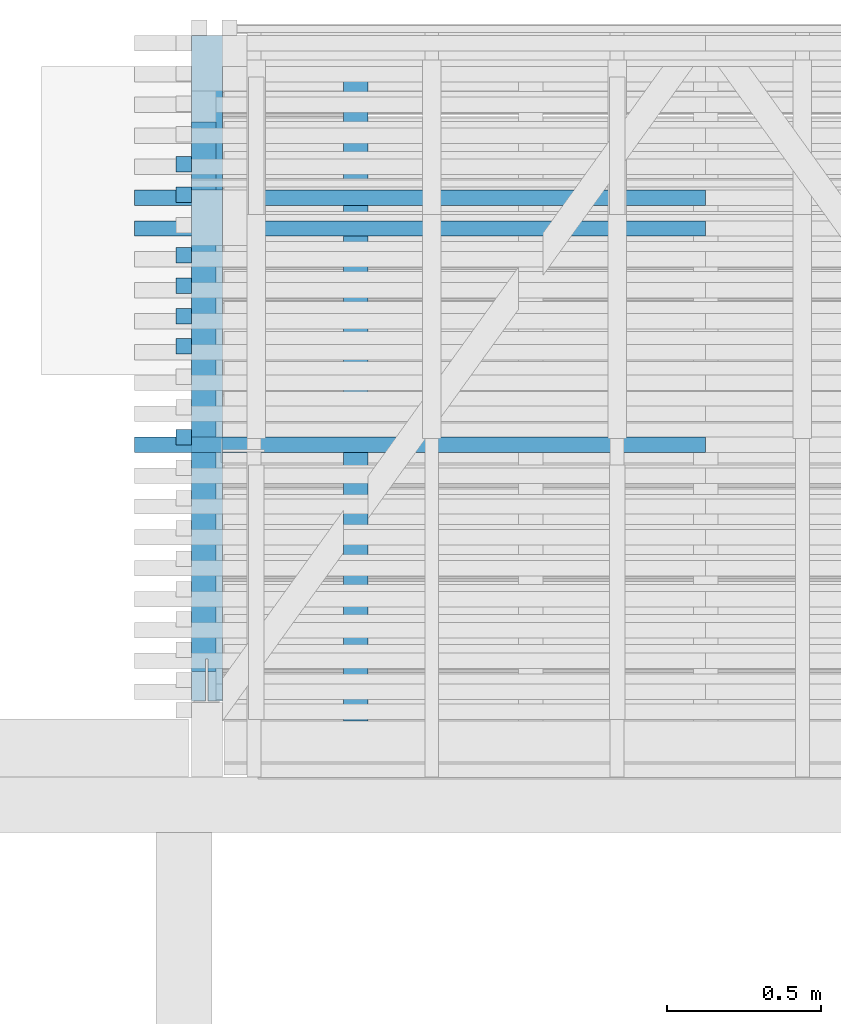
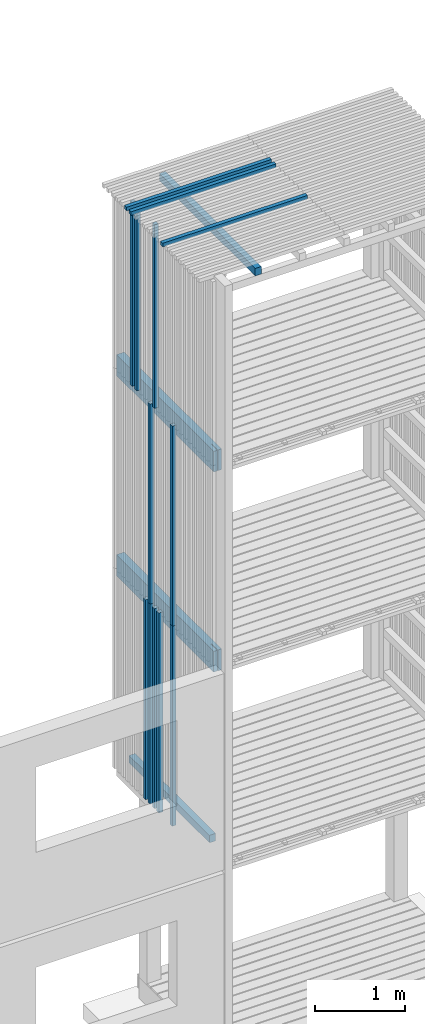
# One storey, part 11 of 182: 17 beams.
"""IFC2X3 building model written with IfcOpenShell, lengths in metres."""

import ifcopenshell
import ifcopenshell.guid

model = None  # the IFC model being written
_history = None  # IfcOwnerHistory: only IFC2X3 demands one
_inside = {}  # id of a spatial element -> (the spatial element, [elements in it])
_under = {}  # id of a project, library or spatial element -> (it, [spatial elements below it])
_declared = {}  # id of a project -> (the project, [libraries it declares])
_typed = {}  # id of a type object -> (the type object, [elements of that type])
_made_of = {}  # id of a material, layer set ... -> (it, [elements and type objects made of it])


def new_model(schema):
    """Start an empty IFC model of exactly this schema.

    Asked for "IFC4X3", IfcOpenShell would pick the latest addendum, in which some entities
    have other attributes; the version numbers below select the first issue.
    IFC2X3 requires an IfcOwnerHistory on every rooted entity: one is made here for all.
    """
    global model, _history
    if schema == "IFC4X3":
        model = ifcopenshell.file(schema_version=(4, 3, 0, 0))
    else:
        model = ifcopenshell.file(schema=schema)
    _inside.clear()
    _under.clear()
    _declared.clear()
    _typed.clear()
    _made_of.clear()
    _history = None
    if model.schema == "IFC2X3":
        org = make("IfcOrganization", Name="unknown")
        user = make(
            "IfcPersonAndOrganization",
            ThePerson=make("IfcPerson", FamilyName="unknown"),
            TheOrganization=org,
        )
        app = make(
            "IfcApplication",
            ApplicationDeveloper=org,
            Version="unknown",
            ApplicationFullName="unknown",
            ApplicationIdentifier="unknown",
        )
        _history = make(
            "IfcOwnerHistory",
            OwningUser=user,
            OwningApplication=app,
            ChangeAction="ADDED",
            CreationDate=0,
        )
    return model


def make(cls, **values):
    """One entity of the class cls with the attributes given. An attribute that is None is left unset."""
    return model.create_entity(
        cls, **{name: value for name, value in values.items() if value is not None}
    )


def rooted(cls, **values):
    """An entity with a GlobalId (a new one), such as an element, a storey or a relation."""
    return make(cls, GlobalId=ifcopenshell.guid.new(), OwnerHistory=_history, **values)


def si_unit(unit_type, name, prefix=None):
    """IfcSIUnit, for example si_unit("LENGTHUNIT", "METRE", prefix="MILLI")."""
    return make("IfcSIUnit", UnitType=unit_type, Prefix=prefix, Name=name)


def assignment(units):
    """IfcUnitAssignment: the units of a project."""
    return None if units is None else make("IfcUnitAssignment", Units=units)


def point(xyz):
    """IfcCartesianPoint."""
    return None if xyz is None else make("IfcCartesianPoint", Coordinates=xyz)


def direction(xyz):
    """IfcDirection."""
    return None if xyz is None else make("IfcDirection", DirectionRatios=xyz)


def frame(location, z_axis=None, x_axis=None):
    """IfcAxis2Placement3D, a coordinate frame: its origin and axes. An axis left out is left unset."""
    return make(
        "IfcAxis2Placement3D",
        Location=point(location),
        Axis=direction(z_axis),
        RefDirection=direction(x_axis),
    )


def origin():
    """The frame at (0, 0, 0) with its axes left unset."""
    return frame((0.0, 0.0, 0.0))


def place(relative_to, where):
    """IfcLocalPlacement: puts the frame where relative to a parent placement (None: the world)."""
    return make(
        "IfcLocalPlacement", PlacementRelTo=relative_to, RelativePlacement=where
    )


def context(
    kind, dimensions, precision=None, world=None, true_north=None, identifier=None
):
    """IfcGeometricRepresentationContext, for example the 3D "Model" context."""
    return make(
        "IfcGeometricRepresentationContext",
        ContextIdentifier=identifier,
        ContextType=kind,
        CoordinateSpaceDimension=dimensions,
        Precision=precision,
        WorldCoordinateSystem=world,
        TrueNorth=true_north,
    )


def project(units=None, contexts=None):
    """IfcProject with its units and contexts."""
    return rooted(
        "IfcProject",
        Name="project",
        RepresentationContexts=contexts,
        UnitsInContext=assignment(units),
    )


def spatial(cls, under=None, at=None, **own):
    """A site, building, storey or space (cls), placed at a placement, below another one or the project."""
    s = rooted(cls, ObjectPlacement=at, **own)
    if under is not None:
        _under.setdefault(under.id(), (under, []))[1].append(s)
    return s


def faces_of(points, faces, orient=None, outer=None):
    """IfcFace entities. A face is a list of loops; a loop is a list of indices into points, from 0.

    orient and outer hold one flag for each loop. By default every Orientation is true, the
    first loop of a face is its IfcFaceOuterBound and the others are IfcFaceBound.
    """
    made = []
    for i, loops in enumerate(faces):
        bounds = []
        for j, loop in enumerate(loops):
            is_outer = j == 0 if outer is None else outer[i][j]
            bounds.append(
                make(
                    "IfcFaceOuterBound" if is_outer else "IfcFaceBound",
                    Bound=make("IfcPolyLoop", Polygon=[points[k] for k in loop]),
                    Orientation=True if orient is None else orient[i][j],
                )
            )
        made.append(make("IfcFace", Bounds=bounds))
    return made


def faceted_brep(points, faces, orient=None, outer=None, voids=None):
    """IfcFacetedBrep: a solid bounded by flat faces; with voids (closed shells), ...WithVoids."""
    shared = [point(p) for p in points]
    hull = make("IfcClosedShell", CfsFaces=faces_of(shared, faces, orient, outer))
    if voids is None:
        return make("IfcFacetedBrep", Outer=hull)
    return make(
        "IfcFacetedBrepWithVoids",
        Outer=hull,
        Voids=[
            make(cls, CfsFaces=faces_of(shared, fs, o, b)) for cls, fs, o, b in voids
        ],
    )


def shape(context_of_items, identifier, shape_type, items):
    """IfcShapeRepresentation: the items that make up one representation, for example the "Body"."""
    return make(
        "IfcShapeRepresentation",
        ContextOfItems=context_of_items,
        RepresentationIdentifier=identifier,
        RepresentationType=shape_type,
        Items=items,
    )


def made_of(thing, what):
    """Note that an element or type object is made of a material, layer set ...; save() writes the relation."""
    if what is not None:
        _made_of.setdefault(what.id(), (what, []))[1].append(thing)
    return thing


def element(
    cls,
    number,
    at=None,
    inside=None,
    cuts=None,
    type_object=None,
    material=None,
    context=None,
    identifier="Body",
    shape_type=None,
    held_by="IfcProductDefinitionShape",
    body=None,
    shapes=None,
    **own,
):
    """One element of the class cls, such as IfcWall. Its Tag is "e" and its number.

    at: its placement. inside: the storey or other place that contains it. cuts: it is an
    opening in that element (IfcRelVoidsElement). A single representation is given by context,
    identifier, shape_type and body (its items); several are given by shapes. held_by: the class
    of the entity that holds the representations. save() writes the other relations.
    """
    e = rooted(cls, Tag="e%d" % number, ObjectPlacement=at, **own)
    if body is not None:
        shapes = [shape(context, identifier, shape_type, body)]
    if shapes is not None:
        e.Representation = make(held_by, Representations=shapes)
    if inside is not None:
        _inside.setdefault(inside.id(), (inside, []))[1].append(e)
    if cuts is not None:
        rooted(
            "IfcRelVoidsElement", RelatingBuildingElement=cuts, RelatedOpeningElement=e
        )
    if type_object is not None:
        _typed.setdefault(type_object.id(), (type_object, []))[1].append(e)
    return made_of(e, material)


def aggregate(whole, parts):
    """IfcRelAggregates: a whole, such as a stair, and the parts it consists of."""
    return rooted("IfcRelAggregates", RelatingObject=whole, RelatedObjects=parts)


def save(model, path):
    """Write the relations noted so far, then the file.

    IfcRelAggregates (storeys below a building ...), IfcRelContainedInSpatialStructure (elements
    in a storey), IfcRelDefinesByType, IfcRelAssociatesMaterial and IfcRelDeclares: one each for
    every whole, place, type object, material and project.
    """
    for whole, parts in _under.values():
        aggregate(whole, parts)
    for where, things in _inside.values():
        rooted(
            "IfcRelContainedInSpatialStructure",
            RelatedElements=things,
            RelatingStructure=where,
        )
    for kind, things in _typed.values():
        rooted("IfcRelDefinesByType", RelatedObjects=things, RelatingType=kind)
    for what, things in _made_of.values():
        rooted("IfcRelAssociatesMaterial", RelatedObjects=things, RelatingMaterial=what)
    for by, libraries in _declared.values():
        rooted("IfcRelDeclares", RelatingContext=by, RelatedDefinitions=libraries)
    model.write(path)


model = new_model("IFC2X3")

# Units and contexts
model_context = context("Model", 3, precision=1e-06, world=origin())
ifc_project = project(units=[si_unit("LENGTHUNIT", "METRE"), si_unit("PLANEANGLEUNIT", "RADIAN")], contexts=[model_context])

# Site, building, storey
site = spatial("IfcSite", under=ifc_project, CompositionType="ELEMENT")
building = spatial("IfcBuilding", under=site, CompositionType="ELEMENT")
storey = spatial("IfcBuildingStorey", under=building, Name="vs", CompositionType="ELEMENT", Elevation=-0.85)

# Beams
placement = place(None, origin())
beam_1_placement = place(placement, frame((4.979197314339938, 12.245077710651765, 10.47999999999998), z_axis=(0.0, 0.0, 1.0), x_axis=(-1.0, 0.0, 0.0)))
element("IfcBeam", 1, at=beam_1_placement, inside=storey, Name="Bardage", context=model_context, shape_type="Brep", body=[
    faceted_brep([(1.850000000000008, -0.024999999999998, -0.024999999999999), (1.850000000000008, -0.024999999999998, 0.025000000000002), (-1e-15, -0.024999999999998, 0.025000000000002), (-1e-15, -0.024999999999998, -0.024999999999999), (1.850000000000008, -0.024999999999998, 0.025000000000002), (1.850000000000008, -0.024999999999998, -0.024999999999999), (1.850000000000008, 0.024999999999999, -0.024999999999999), (1.850000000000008, 0.024999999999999, 0.025000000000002), (1.850000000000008, 0.024999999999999, -0.024999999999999), (1.850000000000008, -0.024999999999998, -0.024999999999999), (-1e-15, -0.024999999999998, -0.024999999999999), (-1e-15, 0.024999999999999, -0.024999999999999), (1.850000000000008, 0.024999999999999, 0.025000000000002), (1.850000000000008, 0.024999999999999, -0.024999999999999), (-1e-15, 0.024999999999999, -0.024999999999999), (-1e-15, 0.024999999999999, 0.025000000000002), (-1e-15, -0.024999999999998, 0.025000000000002), (1.850000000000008, -0.024999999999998, 0.025000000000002), (1.850000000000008, 0.024999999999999, 0.025000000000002), (-1e-15, 0.024999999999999, 0.025000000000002), (-1e-15, -0.024999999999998, -0.024999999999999), (-1e-15, -0.024999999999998, 0.025000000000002), (-1e-15, 0.024999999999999, 0.025000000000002), (-1e-15, 0.024999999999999, -0.024999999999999)], [[[0, 1, 2, 3]], [[4, 5, 6, 7]], [[8, 9, 10, 11]], [[12, 13, 14, 15]], [[16, 17, 18, 19]], [[20, 21, 22, 23]]]),
])
beam_2_placement = place(placement, frame((3.845863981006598, 10.650077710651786, 10.404999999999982), z_axis=(0.0, 0.0, 1.0), x_axis=(0.0, 1.0, 0.0)))
element("IfcBeam", 2, at=beam_2_placement, inside=storey, Name="Support bardage", context=model_context, shape_type="Brep", body=[
    faceted_brep([(2.120000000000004, -0.039999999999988, 0.050000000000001), (2.120000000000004, 0.04000000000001, 0.050000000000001), (3e-15, 0.04000000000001, 0.050000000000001), (3e-15, -0.039999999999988, 0.050000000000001), (3e-15, 0.04000000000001, 0.050000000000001), (2.120000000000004, 0.04000000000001, 0.050000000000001), (2.120000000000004, 0.04000000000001, -0.050000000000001), (3e-15, 0.04000000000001, -0.050000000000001), (2.120000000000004, 0.04000000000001, 0.050000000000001), (2.120000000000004, -0.039999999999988, 0.050000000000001), (2.120000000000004, -0.039999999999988, -0.050000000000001), (2.120000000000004, 0.04000000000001, -0.050000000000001), (2.120000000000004, -0.039999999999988, -0.050000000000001), (2.120000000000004, -0.039999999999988, 0.050000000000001), (3e-15, -0.039999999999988, 0.050000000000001), (3e-15, -0.039999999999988, -0.050000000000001), (3e-15, 0.04000000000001, -0.050000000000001), (2.120000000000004, 0.04000000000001, -0.050000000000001), (2.120000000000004, -0.039999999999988, -0.050000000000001), (3e-15, -0.039999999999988, -0.050000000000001), (3e-15, 0.04000000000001, 0.050000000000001), (3e-15, 0.04000000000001, -0.050000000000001), (3e-15, -0.039999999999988, -0.050000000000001), (3e-15, -0.039999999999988, 0.050000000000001)], [[[0, 1, 2, 3]], [[4, 5, 6, 7]], [[8, 9, 10, 11]], [[12, 13, 14, 15]], [[16, 17, 18, 19]], [[20, 21, 22, 23]]]),
])
beam_3_placement = place(placement, frame((3.289197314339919, 11.863259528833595, 2.575000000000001), z_axis=(1.0, 0.0, 0.0), x_axis=(0.0, 0.0, 1.0)))
element("IfcBeam", 3, at=beam_3_placement, inside=storey, Name="Bardage", context=model_context, shape_type="Brep", body=[
    faceted_brep([(2.699961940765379, -0.024999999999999, 0.025000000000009), (2.699961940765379, -0.024999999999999, -0.025000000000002), (2.699961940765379, 0.024999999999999, -0.025000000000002), (2.699961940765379, 0.024999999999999, 0.025000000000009), (0.0, -0.024999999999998, 0.025000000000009), (2.699961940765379, -0.024999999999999, 0.025000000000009), (2.699961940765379, 0.024999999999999, 0.025000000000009), (0.0, 0.025000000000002, 0.025000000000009), (0.0, -0.024999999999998, 0.025000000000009), (0.0, 0.025000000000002, 0.025000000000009), (0.0, 0.025000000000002, -0.025000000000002), (0.0, -0.024999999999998, -0.025000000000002), (0.0, -0.024999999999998, 0.025000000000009), (0.0, -0.024999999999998, -0.025000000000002), (2.699961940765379, -0.024999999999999, -0.025000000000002), (2.699961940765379, -0.024999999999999, 0.025000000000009), (0.0, -0.024999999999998, -0.025000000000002), (0.0, 0.025000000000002, -0.025000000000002), (2.699961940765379, 0.024999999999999, -0.025000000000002), (2.699961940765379, -0.024999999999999, -0.025000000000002), (0.0, 0.025000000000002, -0.025000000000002), (0.0, 0.025000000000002, 0.025000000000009), (2.699961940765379, 0.024999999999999, 0.025000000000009), (2.699961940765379, 0.024999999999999, -0.025000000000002)], [[[0, 1, 2, 3]], [[4, 5, 6, 7]], [[8, 9, 10, 11]], [[12, 13, 14, 15]], [[16, 17, 18, 19]], [[20, 21, 22, 23]]]),
])
beam_4_placement = place(placement, frame((3.289197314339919, 11.96144134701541, 7.974999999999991), z_axis=(1.0, 0.0, 0.0), x_axis=(0.0, 0.0, 1.0)))
element("IfcBeam", 4, at=beam_4_placement, inside=storey, Name="Bardage", context=model_context, shape_type="Brep", body=[
    faceted_brep([(0.0, -0.024999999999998, 0.025000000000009), (0.0, 0.024999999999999, 0.025000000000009), (0.0, 0.024999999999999, -0.025000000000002), (0.0, -0.024999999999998, -0.025000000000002), (2.479999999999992, 0.024999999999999, -0.025000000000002), (2.479999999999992, 0.024999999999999, 0.025000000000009), (2.479999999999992, -0.024999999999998, 0.025000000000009), (2.479999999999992, -0.024999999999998, -0.025000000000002), (0.0, 0.024999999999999, 0.025000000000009), (0.0, -0.024999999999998, 0.025000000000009), (2.479999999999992, -0.024999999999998, 0.025000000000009), (2.479999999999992, 0.024999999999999, 0.025000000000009), (0.0, 0.024999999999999, -0.025000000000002), (0.0, 0.024999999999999, 0.025000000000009), (2.479999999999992, 0.024999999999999, 0.025000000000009), (2.479999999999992, 0.024999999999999, -0.025000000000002), (0.0, -0.024999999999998, -0.025000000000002), (0.0, 0.024999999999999, -0.025000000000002), (2.479999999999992, 0.024999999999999, -0.025000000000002), (2.479999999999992, -0.024999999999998, -0.025000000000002), (2.479999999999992, -0.024999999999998, 0.025000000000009), (0.0, -0.024999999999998, 0.025000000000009), (0.0, -0.024999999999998, -0.025000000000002), (2.479999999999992, -0.024999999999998, -0.025000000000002)], [[[0, 1, 2, 3]], [[4, 5, 6, 7]], [[8, 9, 10, 11]], [[12, 13, 14, 15]], [[16, 17, 18, 19]], [[20, 21, 22, 23]]]),
])
beam_5_placement = place(placement, frame((3.364197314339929, 10.715077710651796, 5.279999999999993), z_axis=(0.0, 0.0, 1.0), x_axis=(0.0, 1.0, 0.0)))
element("IfcBeam", 5, at=beam_5_placement, inside=storey, Name="Sommier", context=model_context, shape_type="Brep", body=[
    faceted_brep([(2.154999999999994, 0.049999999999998, 0.140000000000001), (2.154999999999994, -0.049999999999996, 0.140000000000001), (2.154999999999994, -0.049999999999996, -0.140000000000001), (2.154999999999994, 0.049999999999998, -0.140000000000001), (0.771999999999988, -0.049999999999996, -0.140000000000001), (0.771999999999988, -0.049999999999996, 0.034999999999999), (0.847999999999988, -0.049999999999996, 0.034999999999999), (0.847999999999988, -0.049999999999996, -0.140000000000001), (2.154999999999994, -0.049999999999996, -0.140000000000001), (2.154999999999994, -0.049999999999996, 0.140000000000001), (0.0, -0.049999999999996, 0.140000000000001), (0.0, -0.049999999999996, -0.140000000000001), (0.771999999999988, -0.045000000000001, -0.140000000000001), (0.847999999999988, -0.045000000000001, -0.140000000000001), (0.847999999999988, -0.045000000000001, 0.034999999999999), (0.771999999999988, -0.045000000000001, 0.034999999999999), (0.771999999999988, -0.045000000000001, 0.034999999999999), (0.847999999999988, -0.045000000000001, 0.034999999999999), (0.847999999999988, -0.049999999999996, 0.034999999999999), (0.771999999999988, -0.049999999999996, 0.034999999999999), (0.847999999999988, -0.045000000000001, 0.034999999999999), (0.847999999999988, -0.045000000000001, -0.140000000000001), (0.847999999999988, -0.049999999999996, -0.140000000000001), (0.847999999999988, -0.049999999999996, 0.034999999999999), (0.771999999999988, -0.049999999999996, 0.034999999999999), (0.771999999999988, -0.049999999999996, -0.140000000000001), (0.771999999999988, -0.045000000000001, -0.140000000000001), (0.771999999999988, -0.045000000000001, 0.034999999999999), (2.154999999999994, 0.049999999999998, 0.140000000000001), (2.154999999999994, 0.049999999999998, -0.140000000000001), (0.0, 0.049999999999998, -0.140000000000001), (0.0, 0.049999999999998, 0.140000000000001), (0.0, -0.00399999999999, 0.140000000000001), (0.0, -0.049999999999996, 0.140000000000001), (2.154999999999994, -0.049999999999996, 0.140000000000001), (2.154999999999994, 0.049999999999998, 0.140000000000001), (0.0, 0.049999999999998, 0.140000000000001), (0.0, 0.004000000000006, 0.140000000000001), (0.137, 0.004000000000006, 0.140000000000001), (0.137, -0.00399999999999, 0.140000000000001), (0.0, 0.004000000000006, -0.140000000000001), (0.0, 0.004000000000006, 0.140000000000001), (0.0, 0.049999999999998, 0.140000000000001), (0.0, 0.049999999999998, -0.140000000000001), (0.0, -0.049999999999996, 0.140000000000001), (0.0, -0.00399999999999, 0.140000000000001), (0.0, -0.00399999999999, -0.140000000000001), (0.0, -0.049999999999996, -0.140000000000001), (0.0, 0.049999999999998, -0.140000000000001), (2.154999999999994, 0.049999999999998, -0.140000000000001), (2.154999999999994, -0.049999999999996, -0.140000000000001), (0.847999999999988, -0.049999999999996, -0.140000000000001), (0.847999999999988, -0.045000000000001, -0.140000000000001), (0.771999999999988, -0.045000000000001, -0.140000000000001), (0.771999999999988, -0.049999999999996, -0.140000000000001), (0.0, -0.049999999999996, -0.140000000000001), (0.0, -0.00399999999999, -0.140000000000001), (0.137, -0.00399999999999, -0.140000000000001), (0.137, 0.004000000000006, -0.140000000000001), (0.0, 0.004000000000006, -0.140000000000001), (0.137, 0.004000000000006, -0.140000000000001), (0.137, -0.00399999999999, -0.140000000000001), (0.137, -0.00399999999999, 0.140000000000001), (0.137, 0.004000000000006, 0.140000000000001), (0.0, -0.00399999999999, 0.140000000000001), (0.137, -0.00399999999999, 0.140000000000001), (0.137, -0.00399999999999, -0.140000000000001), (0.0, -0.00399999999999, -0.140000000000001), (0.137, 0.004000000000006, 0.140000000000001), (0.0, 0.004000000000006, 0.140000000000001), (0.0, 0.004000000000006, -0.140000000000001), (0.137, 0.004000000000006, -0.140000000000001)], [[[0, 1, 2, 3]], [[4, 5, 6, 7, 8, 9, 10, 11]], [[12, 13, 14, 15]], [[16, 17, 18, 19]], [[20, 21, 22, 23]], [[24, 25, 26, 27]], [[28, 29, 30, 31]], [[32, 33, 34, 35, 36, 37, 38, 39]], [[40, 41, 42, 43]], [[44, 45, 46, 47]], [[48, 49, 50, 51, 52, 53, 54, 55, 56, 57, 58, 59]], [[60, 61, 62, 63]], [[64, 65, 66, 67]], [[68, 69, 70, 71]]]),
])
beam_6_placement = place(placement, frame((3.289197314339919, 12.452350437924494, 7.974999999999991), z_axis=(1.0, 0.0, 0.0), x_axis=(0.0, 0.0, 1.0)))
element("IfcBeam", 6, at=beam_6_placement, inside=storey, Name="Bardage", context=model_context, shape_type="Brep", body=[
    faceted_brep([(0.0, -0.024999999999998, 0.025000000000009), (0.0, 0.024999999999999, 0.025000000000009), (0.0, 0.024999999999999, -0.025000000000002), (0.0, -0.024999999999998, -0.025000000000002), (2.479999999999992, 0.024999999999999, -0.025000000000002), (2.479999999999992, 0.024999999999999, 0.025000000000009), (2.479999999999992, -0.024999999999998, 0.025000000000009), (2.479999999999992, -0.024999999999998, -0.025000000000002), (0.0, 0.024999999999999, 0.025000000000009), (0.0, -0.024999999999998, 0.025000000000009), (2.479999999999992, -0.024999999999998, 0.025000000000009), (2.479999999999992, 0.024999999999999, 0.025000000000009), (0.0, 0.024999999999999, -0.025000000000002), (0.0, 0.024999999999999, 0.025000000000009), (2.479999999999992, 0.024999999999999, 0.025000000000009), (2.479999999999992, 0.024999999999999, -0.025000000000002), (0.0, -0.024999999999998, -0.025000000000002), (0.0, 0.024999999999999, -0.025000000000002), (2.479999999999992, 0.024999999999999, -0.025000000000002), (2.479999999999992, -0.024999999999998, -0.025000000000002), (2.479999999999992, -0.024999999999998, 0.025000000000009), (0.0, -0.024999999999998, 0.025000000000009), (0.0, -0.024999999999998, -0.025000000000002), (2.479999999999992, -0.024999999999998, -0.025000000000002)], [[[0, 1, 2, 3]], [[4, 5, 6, 7]], [[8, 9, 10, 11]], [[12, 13, 14, 15]], [[16, 17, 18, 19]], [[20, 21, 22, 23]]]),
])
beam_7_placement = place(placement, frame((3.364197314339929, 10.715077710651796, 7.979999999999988), z_axis=(0.0, 0.0, 1.0), x_axis=(0.0, 1.0, 0.0)))
element("IfcBeam", 7, at=beam_7_placement, inside=storey, Name="Sommier", context=model_context, shape_type="Brep", body=[
    faceted_brep([(2.154999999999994, 0.049999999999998, 0.140000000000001), (2.154999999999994, -0.049999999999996, 0.140000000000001), (2.154999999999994, -0.049999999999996, -0.14), (2.154999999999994, 0.049999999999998, -0.14), (0.771999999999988, -0.049999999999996, -0.14), (0.771999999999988, -0.049999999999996, 0.035000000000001), (0.847999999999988, -0.049999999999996, 0.035000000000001), (0.847999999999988, -0.049999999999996, -0.14), (2.154999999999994, -0.049999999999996, -0.14), (2.154999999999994, -0.049999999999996, 0.140000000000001), (0.0, -0.049999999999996, 0.140000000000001), (0.0, -0.049999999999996, -0.14), (0.771999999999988, -0.045000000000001, -0.14), (0.847999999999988, -0.045000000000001, -0.14), (0.847999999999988, -0.045000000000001, 0.035000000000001), (0.771999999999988, -0.045000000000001, 0.035000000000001), (0.771999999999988, -0.045000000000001, 0.035000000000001), (0.847999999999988, -0.045000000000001, 0.035000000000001), (0.847999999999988, -0.049999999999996, 0.035000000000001), (0.771999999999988, -0.049999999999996, 0.035000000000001), (0.847999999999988, -0.045000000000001, 0.035000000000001), (0.847999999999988, -0.045000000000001, -0.14), (0.847999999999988, -0.049999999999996, -0.14), (0.847999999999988, -0.049999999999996, 0.035000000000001), (0.771999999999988, -0.049999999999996, 0.035000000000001), (0.771999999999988, -0.049999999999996, -0.14), (0.771999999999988, -0.045000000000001, -0.14), (0.771999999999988, -0.045000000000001, 0.035000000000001), (2.154999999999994, 0.049999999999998, 0.140000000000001), (2.154999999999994, 0.049999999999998, -0.14), (0.0, 0.049999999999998, -0.14), (0.0, 0.049999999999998, 0.140000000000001), (0.0, -0.00399999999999, 0.140000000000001), (0.0, -0.049999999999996, 0.140000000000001), (2.154999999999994, -0.049999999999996, 0.140000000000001), (2.154999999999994, 0.049999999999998, 0.140000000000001), (0.0, 0.049999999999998, 0.140000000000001), (0.0, 0.004000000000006, 0.140000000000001), (0.137, 0.004000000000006, 0.140000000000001), (0.137, -0.00399999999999, 0.140000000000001), (0.0, 0.004000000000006, -0.14), (0.0, 0.004000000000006, 0.140000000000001), (0.0, 0.049999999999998, 0.140000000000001), (0.0, 0.049999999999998, -0.14), (0.0, -0.049999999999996, 0.140000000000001), (0.0, -0.00399999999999, 0.140000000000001), (0.0, -0.00399999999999, -0.14), (0.0, -0.049999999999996, -0.14), (0.0, 0.049999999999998, -0.14), (2.154999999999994, 0.049999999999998, -0.14), (2.154999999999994, -0.049999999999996, -0.14), (0.847999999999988, -0.049999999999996, -0.14), (0.847999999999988, -0.045000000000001, -0.14), (0.771999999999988, -0.045000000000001, -0.14), (0.771999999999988, -0.049999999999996, -0.14), (0.0, -0.049999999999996, -0.14), (0.0, -0.00399999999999, -0.14), (0.137, -0.00399999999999, -0.14), (0.137, 0.004000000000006, -0.14), (0.0, 0.004000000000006, -0.14), (0.137, 0.004000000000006, -0.14), (0.137, -0.00399999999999, -0.14), (0.137, -0.00399999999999, 0.140000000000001), (0.137, 0.004000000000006, 0.140000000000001), (0.0, -0.00399999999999, 0.140000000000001), (0.137, -0.00399999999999, 0.140000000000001), (0.137, -0.00399999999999, -0.14), (0.0, -0.00399999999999, -0.14), (0.137, 0.004000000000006, 0.140000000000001), (0.0, 0.004000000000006, 0.140000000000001), (0.0, 0.004000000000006, -0.14), (0.137, 0.004000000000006, -0.14)], [[[0, 1, 2, 3]], [[4, 5, 6, 7, 8, 9, 10, 11]], [[12, 13, 14, 15]], [[16, 17, 18, 19]], [[20, 21, 22, 23]], [[24, 25, 26, 27]], [[28, 29, 30, 31]], [[32, 33, 34, 35, 36, 37, 38, 39]], [[40, 41, 42, 43]], [[44, 45, 46, 47]], [[48, 49, 50, 51, 52, 53, 54, 55, 56, 57, 58, 59]], [[60, 61, 62, 63]], [[64, 65, 66, 67]], [[68, 69, 70, 71]]]),
])
beam_8_placement = place(placement, frame((3.289197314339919, 12.059623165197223, 2.575000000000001), z_axis=(1.0, 0.0, 0.0), x_axis=(0.0, 0.0, 1.0)))
element("IfcBeam", 8, at=beam_8_placement, inside=storey, Name="Bardage", context=model_context, shape_type="Brep", body=[
    faceted_brep([(2.699961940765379, -0.025000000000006, 0.025000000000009), (2.699961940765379, -0.025000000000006, -0.025000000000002), (2.699961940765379, 0.024999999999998, -0.025000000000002), (2.699961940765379, 0.024999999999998, 0.025000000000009), (0.0, -0.025000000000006, 0.025000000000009), (2.699961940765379, -0.025000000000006, 0.025000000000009), (2.699961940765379, 0.024999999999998, 0.025000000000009), (0.0, 0.024999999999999, 0.025000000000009), (0.0, -0.025000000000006, 0.025000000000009), (0.0, 0.024999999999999, 0.025000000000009), (0.0, 0.024999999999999, -0.025000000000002), (0.0, -0.025000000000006, -0.025000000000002), (0.0, -0.025000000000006, 0.025000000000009), (0.0, -0.025000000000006, -0.025000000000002), (2.699961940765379, -0.025000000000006, -0.025000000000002), (2.699961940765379, -0.025000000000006, 0.025000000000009), (0.0, -0.025000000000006, -0.025000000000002), (0.0, 0.024999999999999, -0.025000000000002), (2.699961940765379, 0.024999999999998, -0.025000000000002), (2.699961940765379, -0.025000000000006, -0.025000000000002), (0.0, 0.024999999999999, -0.025000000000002), (0.0, 0.024999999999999, 0.025000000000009), (2.699961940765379, 0.024999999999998, 0.025000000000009), (2.699961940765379, 0.024999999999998, -0.025000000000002)], [[[0, 1, 2, 3]], [[4, 5, 6, 7]], [[8, 9, 10, 11]], [[12, 13, 14, 15]], [[16, 17, 18, 19]], [[20, 21, 22, 23]]]),
])
beam_9_placement = place(placement, frame((3.289197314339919, 12.157804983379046, 2.575000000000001), z_axis=(1.0, 0.0, 0.0), x_axis=(0.0, 0.0, 1.0)))
element("IfcBeam", 9, at=beam_9_placement, inside=storey, Name="Bardage", context=model_context, shape_type="Brep", body=[
    faceted_brep([(2.699961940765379, -0.024999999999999, 0.025000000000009), (2.699961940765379, -0.024999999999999, -0.025000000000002), (2.699961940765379, 0.024999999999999, -0.025000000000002), (2.699961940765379, 0.024999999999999, 0.025000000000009), (0.0, -0.024999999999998, 0.025000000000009), (2.699961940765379, -0.024999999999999, 0.025000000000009), (2.699961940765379, 0.024999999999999, 0.025000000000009), (0.0, 0.024999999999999, 0.025000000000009), (0.0, -0.024999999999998, 0.025000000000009), (0.0, 0.024999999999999, 0.025000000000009), (0.0, 0.024999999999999, -0.025000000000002), (0.0, -0.024999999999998, -0.025000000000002), (0.0, -0.024999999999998, 0.025000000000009), (0.0, -0.024999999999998, -0.025000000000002), (2.699961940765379, -0.024999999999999, -0.025000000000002), (2.699961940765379, -0.024999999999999, 0.025000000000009), (0.0, -0.024999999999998, -0.025000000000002), (0.0, 0.024999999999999, -0.025000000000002), (2.699961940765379, 0.024999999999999, -0.025000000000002), (2.699961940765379, -0.024999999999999, -0.025000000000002), (0.0, 0.024999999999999, -0.025000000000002), (0.0, 0.024999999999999, 0.025000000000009), (2.699961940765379, 0.024999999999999, 0.025000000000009), (2.699961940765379, 0.024999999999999, -0.025000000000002)], [[[0, 1, 2, 3]], [[4, 5, 6, 7]], [[8, 9, 10, 11]], [[12, 13, 14, 15]], [[16, 17, 18, 19]], [[20, 21, 22, 23]]]),
])
beam_10_placement = place(placement, frame((4.979197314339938, 11.545077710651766, 10.47999999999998), z_axis=(0.0, 0.0, 1.0), x_axis=(-1.0, -2e-15, 0.0)))
element("IfcBeam", 10, at=beam_10_placement, inside=storey, Name="Bardage", context=model_context, shape_type="Brep", body=[
    faceted_brep([(1.850000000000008, -0.025000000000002, -0.024999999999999), (1.850000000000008, -0.025000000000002, 0.025000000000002), (-1e-15, -0.024999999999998, 0.025000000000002), (-1e-15, -0.024999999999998, -0.024999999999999), (1.850000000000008, -0.025000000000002, 0.025000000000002), (1.850000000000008, -0.025000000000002, -0.024999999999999), (1.850000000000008, 0.024999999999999, -0.024999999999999), (1.850000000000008, 0.024999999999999, 0.025000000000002), (1.850000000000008, 0.024999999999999, -0.024999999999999), (1.850000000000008, -0.025000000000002, -0.024999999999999), (-1e-15, -0.024999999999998, -0.024999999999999), (0.0, 0.025000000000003, -0.024999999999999), (1.850000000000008, 0.024999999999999, 0.025000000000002), (1.850000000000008, 0.024999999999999, -0.024999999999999), (0.0, 0.025000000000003, -0.024999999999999), (0.0, 0.025000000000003, 0.025000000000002), (-1e-15, -0.024999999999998, 0.025000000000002), (1.850000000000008, -0.025000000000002, 0.025000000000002), (1.850000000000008, 0.024999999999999, 0.025000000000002), (0.0, 0.025000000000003, 0.025000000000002), (-1e-15, -0.024999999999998, -0.024999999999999), (-1e-15, -0.024999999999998, 0.025000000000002), (0.0, 0.025000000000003, 0.025000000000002), (0.0, 0.025000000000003, -0.024999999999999)], [[[0, 1, 2, 3]], [[4, 5, 6, 7]], [[8, 9, 10, 11]], [[12, 13, 14, 15]], [[16, 17, 18, 19]], [[20, 21, 22, 23]]]),
])
beam_11_placement = place(placement, frame((3.354197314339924, 10.810077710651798, 2.830000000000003), z_axis=(0.0, 0.0, 1.0), x_axis=(0.0, 1.0, 0.0)))
element("IfcBeam", 11, at=beam_11_placement, inside=storey, Name="Support bardage", context=model_context, shape_type="Brep", body=[
    faceted_brep([(1.779999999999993, 0.039999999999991, -0.050000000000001), (1.779999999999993, 0.039999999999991, 0.05), (1.779999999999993, -0.040000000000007, 0.05), (1.779999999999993, -0.040000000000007, -0.050000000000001), (1.779999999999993, -0.040000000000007, 0.05), (1.779999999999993, 0.039999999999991, 0.05), (-4e-15, 0.039999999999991, 0.05), (-4e-15, -0.040000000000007, 0.05), (-4e-15, 0.039999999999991, 0.05), (1.779999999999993, 0.039999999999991, 0.05), (1.779999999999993, 0.039999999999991, -0.050000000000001), (-4e-15, 0.039999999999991, -0.050000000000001), (1.779999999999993, -0.040000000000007, -0.050000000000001), (1.779999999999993, -0.040000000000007, 0.05), (-4e-15, -0.040000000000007, 0.05), (-4e-15, -0.040000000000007, -0.050000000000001), (-4e-15, 0.039999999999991, -0.050000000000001), (1.779999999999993, 0.039999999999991, -0.050000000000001), (1.779999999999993, -0.040000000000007, -0.050000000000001), (-4e-15, -0.040000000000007, -0.050000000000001), (-4e-15, 0.039999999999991, 0.05), (-4e-15, 0.039999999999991, -0.050000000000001), (-4e-15, -0.040000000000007, -0.050000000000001), (-4e-15, -0.040000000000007, 0.05)], [[[0, 1, 2, 3]], [[4, 5, 6, 7]], [[8, 9, 10, 11]], [[12, 13, 14, 15]], [[16, 17, 18, 19]], [[20, 21, 22, 23]]]),
])
beam_12_placement = place(placement, frame((3.289197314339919, 11.96144134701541, 2.575000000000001), z_axis=(1.0, 0.0, 0.0), x_axis=(0.0, 0.0, 1.0)))
element("IfcBeam", 12, at=beam_12_placement, inside=storey, Name="Bardage", context=model_context, shape_type="Brep", body=[
    faceted_brep([(2.699961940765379, -0.024999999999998, 0.025000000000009), (2.699961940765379, -0.024999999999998, -0.025000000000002), (2.699961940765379, 0.024999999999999, -0.025000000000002), (2.699961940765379, 0.024999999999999, 0.025000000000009), (0.0, -0.024999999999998, 0.025000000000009), (2.699961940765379, -0.024999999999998, 0.025000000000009), (2.699961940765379, 0.024999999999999, 0.025000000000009), (0.0, 0.024999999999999, 0.025000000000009), (0.0, -0.024999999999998, 0.025000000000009), (0.0, 0.024999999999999, 0.025000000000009), (0.0, 0.024999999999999, -0.025000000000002), (0.0, -0.024999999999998, -0.025000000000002), (0.0, -0.024999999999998, 0.025000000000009), (0.0, -0.024999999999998, -0.025000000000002), (2.699961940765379, -0.024999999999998, -0.025000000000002), (2.699961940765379, -0.024999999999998, 0.025000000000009), (0.0, -0.024999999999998, -0.025000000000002), (0.0, 0.024999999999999, -0.025000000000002), (2.699961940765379, 0.024999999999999, -0.025000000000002), (2.699961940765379, -0.024999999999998, -0.025000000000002), (0.0, 0.024999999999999, -0.025000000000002), (0.0, 0.024999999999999, 0.025000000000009), (2.699961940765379, 0.024999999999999, 0.025000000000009), (2.699961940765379, 0.024999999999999, -0.025000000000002)], [[[0, 1, 2, 3]], [[4, 5, 6, 7]], [[8, 9, 10, 11]], [[12, 13, 14, 15]], [[16, 17, 18, 19]], [[20, 21, 22, 23]]]),
])
beam_13_placement = place(placement, frame((3.289197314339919, 11.568714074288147, 2.575000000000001), z_axis=(1.0, 0.0, 0.0), x_axis=(0.0, 0.0, 1.0)))
element("IfcBeam", 13, at=beam_13_placement, inside=storey, Name="Bardage", context=model_context, shape_type="Brep", body=[
    faceted_brep([(2.699961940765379, -0.024999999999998, 0.025000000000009), (2.699961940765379, -0.024999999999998, -0.025000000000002), (2.699961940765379, 0.025000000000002, -0.025000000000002), (2.699961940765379, 0.025000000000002, 0.025000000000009), (0.0, -0.024999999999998, 0.025000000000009), (2.699961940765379, -0.024999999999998, 0.025000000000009), (2.699961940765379, 0.025000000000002, 0.025000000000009), (0.0, 0.025000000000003, 0.025000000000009), (0.0, -0.024999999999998, 0.025000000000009), (0.0, 0.025000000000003, 0.025000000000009), (0.0, 0.025000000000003, -0.025000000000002), (0.0, -0.024999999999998, -0.025000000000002), (0.0, -0.024999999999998, 0.025000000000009), (0.0, -0.024999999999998, -0.025000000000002), (2.699961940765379, -0.024999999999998, -0.025000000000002), (2.699961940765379, -0.024999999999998, 0.025000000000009), (0.0, -0.024999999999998, -0.025000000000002), (0.0, 0.025000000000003, -0.025000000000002), (2.699961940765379, 0.025000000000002, -0.025000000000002), (2.699961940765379, -0.024999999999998, -0.025000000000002), (0.0, 0.025000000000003, -0.025000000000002), (0.0, 0.025000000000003, 0.025000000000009), (2.699961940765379, 0.025000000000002, 0.025000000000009), (2.699961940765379, 0.025000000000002, -0.025000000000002)], [[[0, 1, 2, 3]], [[4, 5, 6, 7]], [[8, 9, 10, 11]], [[12, 13, 14, 15]], [[16, 17, 18, 19]], [[20, 21, 22, 23]]]),
])
beam_14_placement = place(placement, frame((3.289197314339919, 12.059623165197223, 5.274999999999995), z_axis=(1.0, 0.0, 0.0), x_axis=(0.0, 0.0, 1.0)))
element("IfcBeam", 14, at=beam_14_placement, inside=storey, Name="Bardage", context=model_context, shape_type="Brep", body=[
    faceted_brep([(2.699999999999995, 0.024999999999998, 0.025000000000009), (2.699999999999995, -0.025000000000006, 0.025000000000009), (2.699999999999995, -0.025000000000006, -0.025000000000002), (2.699999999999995, 0.024999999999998, -0.025000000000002), (1e-15, 0.024999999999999, 0.025000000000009), (2.699999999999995, 0.024999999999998, 0.025000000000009), (2.699999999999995, 0.024999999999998, -0.025000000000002), (1e-15, 0.024999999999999, -0.025000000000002), (1e-15, -0.025000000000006, 0.025000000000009), (1e-15, 0.024999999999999, 0.025000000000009), (1e-15, 0.024999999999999, -0.025000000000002), (1e-15, -0.025000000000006, -0.025000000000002), (1e-15, 0.024999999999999, 0.025000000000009), (1e-15, -0.025000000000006, 0.025000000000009), (2.699999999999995, -0.025000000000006, 0.025000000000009), (2.699999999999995, 0.024999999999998, 0.025000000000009), (1e-15, -0.025000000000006, 0.025000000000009), (1e-15, -0.025000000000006, -0.025000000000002), (2.699999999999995, -0.025000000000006, -0.025000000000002), (2.699999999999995, -0.025000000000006, 0.025000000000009), (1e-15, -0.025000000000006, -0.025000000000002), (1e-15, 0.024999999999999, -0.025000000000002), (2.699999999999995, 0.024999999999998, -0.025000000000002), (2.699999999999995, -0.025000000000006, -0.025000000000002)], [[[0, 1, 2, 3]], [[4, 5, 6, 7]], [[8, 9, 10, 11]], [[12, 13, 14, 15]], [[16, 17, 18, 19]], [[20, 21, 22, 23]]]),
])
beam_15_placement = place(placement, frame((4.979197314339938, 12.34507771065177, 10.47999999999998), z_axis=(0.0, 0.0, 1.0), x_axis=(-1.0, 0.0, 0.0)))
element("IfcBeam", 15, at=beam_15_placement, inside=storey, Name="Bardage", context=model_context, shape_type="Brep", body=[
    faceted_brep([(1.850000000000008, -0.024999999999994, -0.024999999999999), (1.850000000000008, -0.024999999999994, 0.025000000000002), (-1e-15, -0.024999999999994, 0.025000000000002), (-1e-15, -0.024999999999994, -0.024999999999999), (1.850000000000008, -0.024999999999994, 0.025000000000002), (1.850000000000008, -0.024999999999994, -0.024999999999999), (1.850000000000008, 0.025000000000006, -0.024999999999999), (1.850000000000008, 0.025000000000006, 0.025000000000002), (1.850000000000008, 0.025000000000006, -0.024999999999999), (1.850000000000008, -0.024999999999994, -0.024999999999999), (-1e-15, -0.024999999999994, -0.024999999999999), (-1e-15, 0.025000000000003, -0.024999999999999), (1.850000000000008, 0.025000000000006, 0.025000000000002), (1.850000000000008, 0.025000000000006, -0.024999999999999), (-1e-15, 0.025000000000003, -0.024999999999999), (-1e-15, 0.025000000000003, 0.025000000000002), (-1e-15, -0.024999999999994, 0.025000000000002), (1.850000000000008, -0.024999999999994, 0.025000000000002), (1.850000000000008, 0.025000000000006, 0.025000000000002), (-1e-15, 0.025000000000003, 0.025000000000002), (-1e-15, -0.024999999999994, -0.024999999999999), (-1e-15, -0.024999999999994, 0.025000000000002), (-1e-15, 0.025000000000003, 0.025000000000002), (-1e-15, 0.025000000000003, -0.024999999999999)], [[[0, 1, 2, 3]], [[4, 5, 6, 7]], [[8, 9, 10, 11]], [[12, 13, 14, 15]], [[16, 17, 18, 19]], [[20, 21, 22, 23]]]),
])
beam_16_placement = place(placement, frame((3.289197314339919, 12.35416861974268, 7.974999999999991), z_axis=(1.0, 0.0, 0.0), x_axis=(0.0, 0.0, 1.0)))
element("IfcBeam", 16, at=beam_16_placement, inside=storey, Name="Bardage", context=model_context, shape_type="Brep", body=[
    faceted_brep([(0.0, -0.024999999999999, 0.025000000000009), (0.0, 0.025000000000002, 0.025000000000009), (0.0, 0.025000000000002, -0.025000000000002), (0.0, -0.024999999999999, -0.025000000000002), (2.479999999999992, 0.025000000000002, -0.025000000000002), (2.479999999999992, 0.025000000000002, 0.025000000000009), (2.479999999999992, -0.024999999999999, 0.025000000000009), (2.479999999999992, -0.024999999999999, -0.025000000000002), (0.0, 0.025000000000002, 0.025000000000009), (0.0, -0.024999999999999, 0.025000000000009), (2.479999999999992, -0.024999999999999, 0.025000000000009), (2.479999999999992, 0.025000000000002, 0.025000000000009), (0.0, 0.025000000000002, -0.025000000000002), (0.0, 0.025000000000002, 0.025000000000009), (2.479999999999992, 0.025000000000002, 0.025000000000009), (2.479999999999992, 0.025000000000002, -0.025000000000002), (0.0, -0.024999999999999, -0.025000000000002), (0.0, 0.025000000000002, -0.025000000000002), (2.479999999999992, 0.025000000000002, -0.025000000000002), (2.479999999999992, -0.024999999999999, -0.025000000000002), (2.479999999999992, -0.024999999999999, 0.025000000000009), (0.0, -0.024999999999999, 0.025000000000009), (0.0, -0.024999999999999, -0.025000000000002), (2.479999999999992, -0.024999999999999, -0.025000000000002)], [[[0, 1, 2, 3]], [[4, 5, 6, 7]], [[8, 9, 10, 11]], [[12, 13, 14, 15]], [[16, 17, 18, 19]], [[20, 21, 22, 23]]]),
])
beam_17_placement = place(placement, frame((3.289197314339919, 11.568714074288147, 5.274999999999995), z_axis=(1.0, 0.0, 0.0), x_axis=(0.0, 0.0, 1.0)))
element("IfcBeam", 17, at=beam_17_placement, inside=storey, Name="Bardage", context=model_context, shape_type="Brep", body=[
    faceted_brep([(2.699999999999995, 0.025000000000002, 0.025000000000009), (2.699999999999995, -0.024999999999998, 0.025000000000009), (2.699999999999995, -0.024999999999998, -0.025000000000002), (2.699999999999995, 0.025000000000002, -0.025000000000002), (1e-15, 0.025000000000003, 0.025000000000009), (2.699999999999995, 0.025000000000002, 0.025000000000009), (2.699999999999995, 0.025000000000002, -0.025000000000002), (1e-15, 0.025000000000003, -0.025000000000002), (1e-15, -0.024999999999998, 0.025000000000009), (1e-15, 0.025000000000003, 0.025000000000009), (1e-15, 0.025000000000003, -0.025000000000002), (1e-15, -0.024999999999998, -0.025000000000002), (1e-15, 0.025000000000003, 0.025000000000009), (1e-15, -0.024999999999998, 0.025000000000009), (2.699999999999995, -0.024999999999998, 0.025000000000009), (2.699999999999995, 0.025000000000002, 0.025000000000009), (1e-15, -0.024999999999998, 0.025000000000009), (1e-15, -0.024999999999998, -0.025000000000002), (2.699999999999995, -0.024999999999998, -0.025000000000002), (2.699999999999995, -0.024999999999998, 0.025000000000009), (1e-15, -0.024999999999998, -0.025000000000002), (1e-15, 0.025000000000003, -0.025000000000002), (2.699999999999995, 0.025000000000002, -0.025000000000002), (2.699999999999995, -0.024999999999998, -0.025000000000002)], [[[0, 1, 2, 3]], [[4, 5, 6, 7]], [[8, 9, 10, 11]], [[12, 13, 14, 15]], [[16, 17, 18, 19]], [[20, 21, 22, 23]]]),
])

save(model, "model.ifc")
